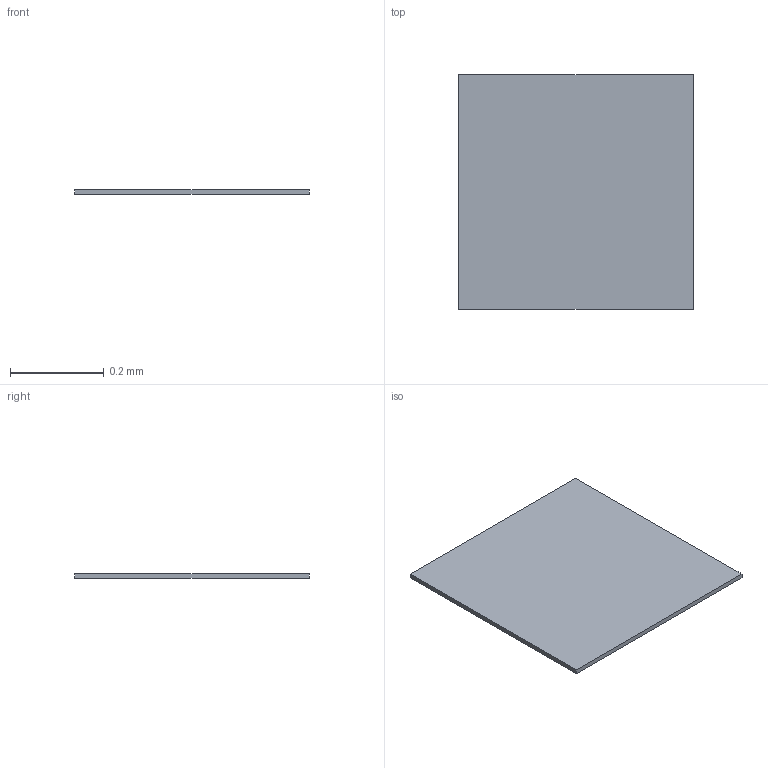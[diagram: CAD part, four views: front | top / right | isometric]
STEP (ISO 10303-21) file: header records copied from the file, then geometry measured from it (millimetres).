
FILE_DESCRIPTION(/* description */ ('STEP AP242 Edition 2','CAx-IF Rec.Pracs.---Representation and Presentation of Product Manufacturing Information (PMI)---4.0---2014-10-13','CAx-IF Rec.Pracs.---3D Tessellated Geometry---0.4---2014-09-14','2;1','CAx-IF Rec.Pracs.---User Defined Attributes---1.5---2016-08-15'),/* implementation_level */ '2;1');
FILE_NAME(/* name */ 'Drone Layout - Surface 385',/* time_stamp */ '2026-10-04T22:22:58Z',/* author */ (''),/* organization */ (''),/* preprocessor_version */ 'ST-DEVELOPER v20',/* originating_system */ 'ONSHAPE BY PTC INC, 1.221',/* authorisation */ ' ');
FILE_SCHEMA (('AP242_MANAGED_MODEL_BASED_3D_ENGINEERING_MIM_LF { 1 0 10303 442 3 1 4 }'));
Length unit declared in the file: metre
Products named in the file (1): pads:1__Body12
Bounding box: 0.5 x 0.5 x 0.01 mm (x, y, z)
Volume: 0 mm3; surface area: 0.5 mm2
Topology: 1 solids, 1 shells, 6 faces, 12 edges, 8 vertices
Faces by surface type: plane 6
Entity records: 169 total; most frequent: CARTESIAN_POINT 27, DIRECTION 26, ORIENTED_EDGE 24, EDGE_CURVE 12, LINE 12, VECTOR 12, VERTEX_POINT 8, AXIS2_PLACEMENT_3D 7
